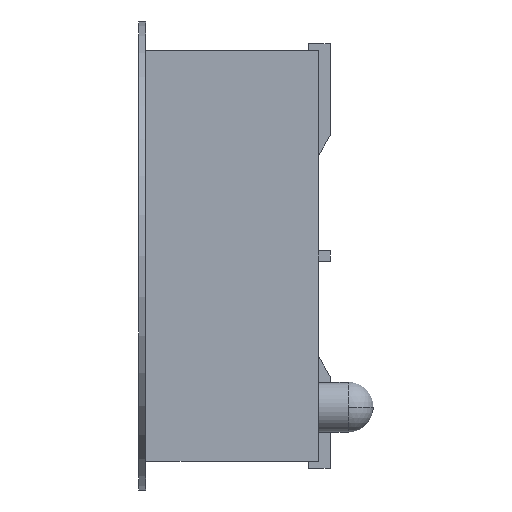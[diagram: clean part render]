
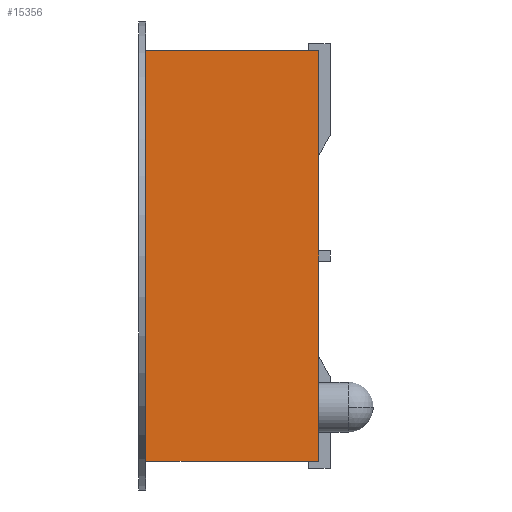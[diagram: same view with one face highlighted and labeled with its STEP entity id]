
A CAD part, left-side view. The second image highlights one B-rep face of the part: STEP entity #15356.
In plain terms, the highlighted planar face has unit normal (-1, 0, 0).
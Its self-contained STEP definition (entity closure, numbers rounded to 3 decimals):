
#1553 = EDGE_CURVE ( 'NONE', #11179, #23582, #18879, .T. ) ;
#3269 = CARTESIAN_POINT ( 'NONE',  ( -30.645, 0., 3.619 ) ) ;
#3478 = CARTESIAN_POINT ( 'NONE',  ( -30.645, 3.048, 3.619 ) ) ;
#3682 = EDGE_CURVE ( 'NONE', #27254, #67458, #74815, .T. ) ;
#4075 = VECTOR ( 'NONE', #40703, 1000. ) ;
#7251 = PLANE ( 'NONE',  #15114 ) ;
#10169 = DIRECTION ( 'NONE',  ( 0., 1., 0. ) ) ;
#11179 = VERTEX_POINT ( 'NONE', #61105 ) ;
#15001 = DIRECTION ( 'NONE',  ( 0., 1., 0. ) ) ;
#15114 = AXIS2_PLACEMENT_3D ( 'NONE', #36890, #51004, #15001 ) ;
#15356 = ADVANCED_FACE ( 'NONE', ( #89336 ), #7251, .F. ) ;
#15545 = DIRECTION ( 'NONE',  ( 0., 1., 0. ) ) ;
#15838 = CARTESIAN_POINT ( 'NONE',  ( -30.645, 3.048, -3.619 ) ) ;
#18879 = LINE ( 'NONE', #84005, #37366 ) ;
#20502 = ORIENTED_EDGE ( 'NONE', *, *, #1553, .F. ) ;
#23582 = VERTEX_POINT ( 'NONE', #15838 ) ;
#27254 = VERTEX_POINT ( 'NONE', #66319 ) ;
#36890 = CARTESIAN_POINT ( 'NONE',  ( -30.645, 3.048, -3.619 ) ) ;
#37366 = VECTOR ( 'NONE', #10169, 1000. ) ;
#40703 = DIRECTION ( 'NONE',  ( 0., 0., -1. ) ) ;
#41189 = LINE ( 'NONE', #3269, #4075 ) ;
#51004 = DIRECTION ( 'NONE',  ( 1., 0., 0. ) ) ;
#58692 = EDGE_CURVE ( 'NONE', #27254, #11179, #41189, .T. ) ;
#59585 = EDGE_CURVE ( 'NONE', #67458, #23582, #62834, .T. ) ;
#61105 = CARTESIAN_POINT ( 'NONE',  ( -30.645, 0., -3.619 ) ) ;
#61708 = CARTESIAN_POINT ( 'NONE',  ( -30.645, 0., 3.619 ) ) ;
#62834 = LINE ( 'NONE', #72359, #77124 ) ;
#63321 = EDGE_LOOP ( 'NONE', ( #95245, #87512, #20502, #70203 ) ) ;
#66319 = CARTESIAN_POINT ( 'NONE',  ( -30.645, 0., 3.619 ) ) ;
#67458 = VERTEX_POINT ( 'NONE', #3478 ) ;
#70203 = ORIENTED_EDGE ( 'NONE', *, *, #58692, .F. ) ;
#72359 = CARTESIAN_POINT ( 'NONE',  ( -30.645, 3.048, 3.619 ) ) ;
#74815 = LINE ( 'NONE', #61708, #91688 ) ;
#77124 = VECTOR ( 'NONE', #92456, 1000. ) ;
#84005 = CARTESIAN_POINT ( 'NONE',  ( -30.645, 0., -3.619 ) ) ;
#87512 = ORIENTED_EDGE ( 'NONE', *, *, #59585, .T. ) ;
#89336 = FACE_OUTER_BOUND ( 'NONE', #63321, .T. ) ;
#91688 = VECTOR ( 'NONE', #15545, 1000. ) ;
#92456 = DIRECTION ( 'NONE',  ( 0., 0., -1. ) ) ;
#95245 = ORIENTED_EDGE ( 'NONE', *, *, #3682, .T. ) ;
